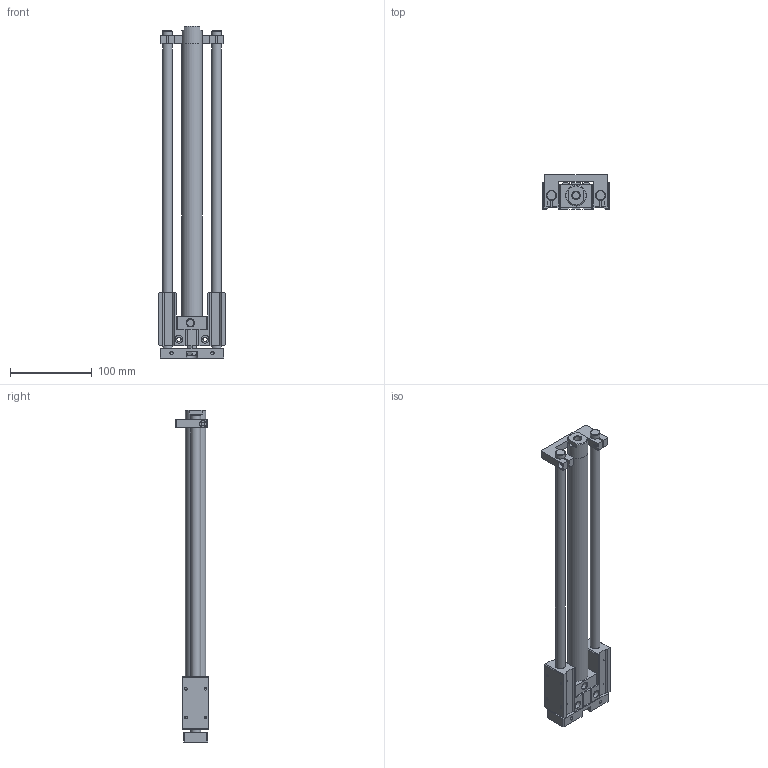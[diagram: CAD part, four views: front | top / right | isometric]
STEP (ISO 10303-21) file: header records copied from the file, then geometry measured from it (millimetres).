
FILE_DESCRIPTION((''),'2;1');
FILE_NAME('I:\3D電子目錄\氣缸\TMB(U)\TMB(U)\TMB(U)20\TMB(U)20x300.stp','2007-10-04T15:04:41',('Administrator'),(''),'Autodesk Inventor 11','Autodesk Inventor 11','');
FILE_SCHEMA(('AUTOMOTIVE_DESIGN { 1 0 10303 214 1 1 1 1 }'));
Length unit declared in the file: millimetre
Products named in the file (1): TMB(U)20
Bounding box: 82 x 41 x 406 mm (x, y, z)
Volume: 403030.4 mm3; surface area: 93547.9 mm2
Topology: 1 solids, 1 shells, 244 faces, 668 edges, 432 vertices
Faces by surface type: plane 139, bspline 50, cone 28, cylinder 25, torus 2
Full cylindrical faces by diameter (mm): 3.242 x4, 4.134 x4, 8 x1, 10 x2, 11 x2, 12 x3, 25 x2
Entity records: 7581 total; most frequent: CARTESIAN_POINT 2093, ORIENTED_EDGE 1088, DIRECTION 1054, EDGE_CURVE 544, VERTEX_POINT 384, EDGE_LOOP 368, AXIS2_PLACEMENT_3D 355, VECTOR 344
